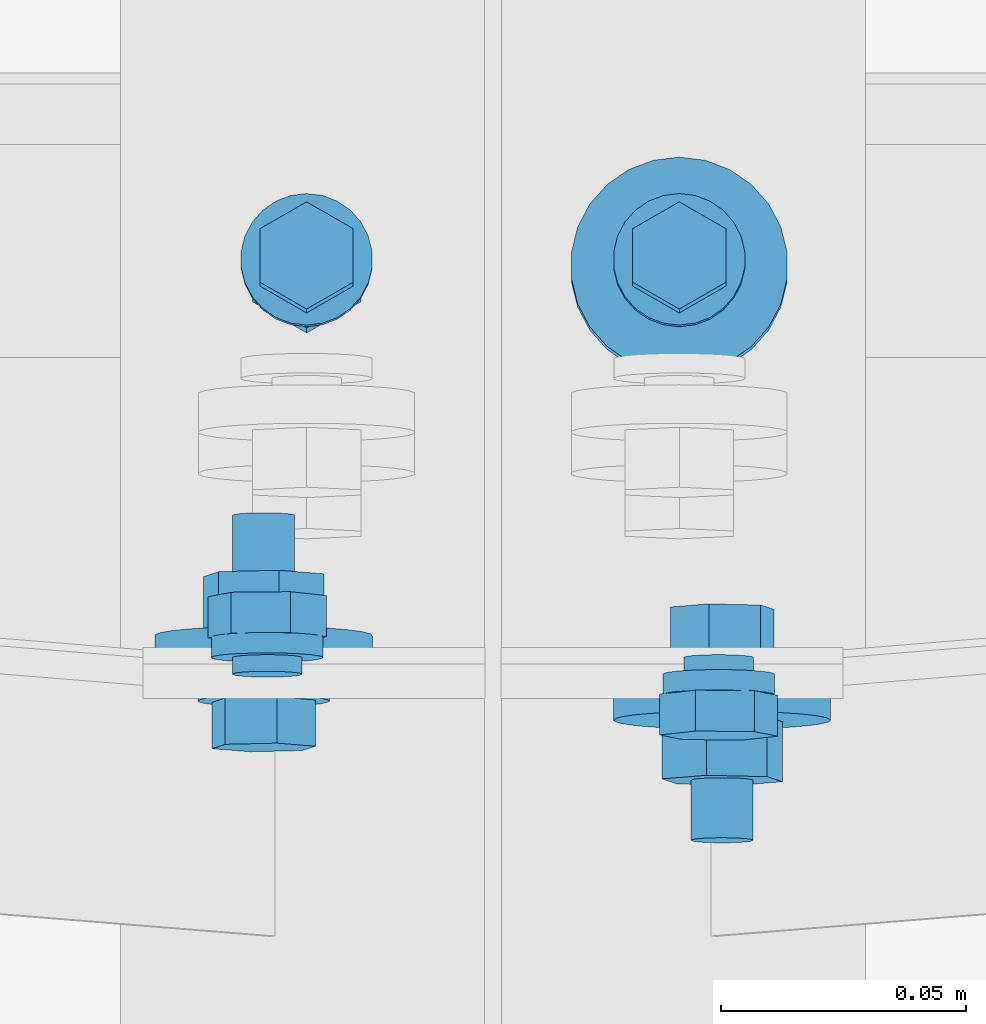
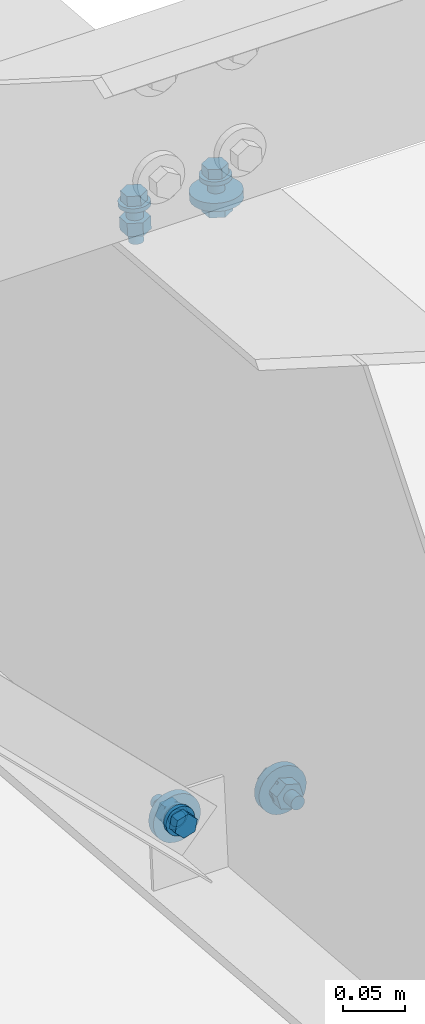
# One storey, part 148 of 185: 6 mechanical fasteners, 4 elements without a shape of their own.
"""IFC2X3 building model written with IfcOpenShell, lengths in millimetres."""

from ifc_helpers import new_model, si_unit, frame, origin_with_axes, origin_2d_with_axis, place, context, subcontext, project, spatial, polyline, circle, outline, extrude, source, transform, mapped, material, type_object, element, aggregate, save


model = new_model("IFC2X3")

# Units and contexts
model_context = context("Model", 3, precision=1e-05, world=origin_with_axes())
body_context = subcontext(model_context, "Body", "Model", "MODEL_VIEW")
ifc_project = project(units=[si_unit("LENGTHUNIT", "METRE", prefix="MILLI"), si_unit("AREAUNIT", "SQUARE_METRE"), si_unit("VOLUMEUNIT", "CUBIC_METRE"), si_unit("MASSUNIT", "GRAM", prefix="KILO"), si_unit("TIMEUNIT", "SECOND"), si_unit("PLANEANGLEUNIT", "RADIAN"), si_unit("SOLIDANGLEUNIT", "STERADIAN"), si_unit("THERMODYNAMICTEMPERATUREUNIT", "DEGREE_CELSIUS"), si_unit("LUMINOUSINTENSITYUNIT", "LUMEN")], contexts=[model_context])

# Site, building, storey
site_placement = place(None, origin_with_axes())
site = spatial("IfcSite", under=ifc_project, at=site_placement, Name="Undefined", CompositionType="ELEMENT")
building_placement = place(site_placement, origin_with_axes())
building = spatial("IfcBuilding", under=site, at=building_placement, Name="Undefined", CompositionType="ELEMENT")
storey_placement = place(building_placement, origin_with_axes())
storey = spatial("IfcBuildingStorey", under=building, at=storey_placement, Name="Undefined", CompositionType="ELEMENT", Elevation=0.0)

# Assembly, mechanical fastener
assembly_1_placement = place(storey_placement, origin_with_axes())
assembly_1 = element("IfcElementAssembly", 1, at=assembly_1_placement, inside=storey, Name="Steel Assembly", AssemblyPlace="NOTDEFINED", PredefinedType="RIGID_FRAME")
ifc_material_1 = material(Name="Undefined")
discrete_accessory_type = type_object("IfcDiscreteAccessoryType", Name="Bolt assembly")
shared_shape_1 = source(origin_with_axes(), body_context, "Body", "SweptSolid", [
    extrude(circle(Radius=7.14374971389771, at=origin_2d_with_axis()), frame((0.0, -1.59000001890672, 0.0), z_axis=(0.0, 1.0, 0.0), x_axis=(1.0, 0.0, 0.0)), (0.0, 0.0, 1.0), 1.7),
    extrude(outline(polyline([(10.9985221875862, 0.0), (5.4992610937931, 9.52499961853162), (-5.4992610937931, 9.52499961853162), (-10.9985221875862, 0.0), (-5.4992610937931, -9.52499961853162), (5.4992610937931, -9.52499961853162), (10.9985221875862, 0.0)])), frame((0.0, -15.0837496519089, 0.0), z_axis=(0.0, 1.0, 0.0), x_axis=(1.0, 0.0, 0.0)), (0.0, 0.0, 1.0), 9.5),
    extrude(circle(Radius=6.34999990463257, at=origin_2d_with_axis()), frame((0.0, -5.5587500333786, 0.0), z_axis=(0.0, 1.0, 0.0), x_axis=(1.0, 0.0, 0.0)), (0.0, 0.0, 1.0), 38.1),
    extrude(circle(Radius=13.4937496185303, at=origin_2d_with_axis()), frame((0.0, -5.5587500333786, 0.0), z_axis=(0.0, 1.0, 0.0), x_axis=(1.0, 0.0, 0.0)), (0.0, 0.0, 1.0), 4.0),
    extrude(circle(Radius=22.2250003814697, at=origin_2d_with_axis()), frame((0.0, 0.0, 0.0), z_axis=(0.0, 1.0, 0.0), x_axis=(1.0, 0.0, 0.0)), (0.0, 0.0, 1.0), 7.9),
    extrude(outline(polyline([(12.8316099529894, 0.0), (6.4158049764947, 11.1125001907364), (-6.4158049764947, 11.1125001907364), (-12.8316099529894, 0.0), (-6.4158049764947, -11.1125001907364), (6.4158049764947, -11.1125001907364), (12.8316099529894, 0.0)])), frame((0.0, 7.93750000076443, 0.0), z_axis=(0.0, 1.0, 0.0), x_axis=(1.0, 0.0, 0.0)), (0.0, 0.0, 1.0), 12.3),
])
mechanical_fastener_1_placement = place(assembly_1_placement, frame((14812.1255043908, 23836.3334696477, 6014.27804871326), z_axis=(-0.697745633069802, -0.0594892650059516, -0.713871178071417), x_axis=(-0.716345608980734, 0.0579446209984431, 0.6953354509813)))
mechanical_fastener_1 = element("IfcMechanicalFastener", 2, at=mechanical_fastener_1_placement, type_object=discrete_accessory_type, material=ifc_material_1, Name="Bolt assembly", NominalDiameter=12.6999998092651, NominalLength=38.0999984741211, context=body_context, shape_type="MappedRepresentation", body=[
    mapped(shared_shape_1, transform((0.0, 0.0, 0.0))),
])
aggregate(assembly_1, [mechanical_fastener_1])

assembly_2_placement = place(storey_placement, origin_with_axes())
assembly_2 = element("IfcElementAssembly", 3, at=assembly_2_placement, inside=storey, Name="Steel Assembly", AssemblyPlace="NOTDEFINED", PredefinedType="RIGID_FRAME")
shared_shape_2 = source(origin_with_axes(), body_context, "Body", "SweptSolid", [
    extrude(circle(Radius=7.14374971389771, at=origin_2d_with_axis()), frame((0.0, 0.0, 0.0), z_axis=(0.0, 1.0, 0.0), x_axis=(1.0, 0.0, 0.0)), (0.0, 0.0, 1.0), 1.7),
    extrude(outline(polyline([(10.9985221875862, 0.0), (5.4992610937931, 9.52499961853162), (-5.4992610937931, 9.52499961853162), (-10.9985221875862, 0.0), (-5.4992610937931, -9.52499961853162), (5.4992610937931, -9.52499961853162), (10.9985221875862, 0.0)])), frame((0.0, -13.4937496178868, 0.0), z_axis=(0.0, 1.0, 0.0), x_axis=(1.0, 0.0, 0.0)), (0.0, 0.0, 1.0), 9.5),
    extrude(circle(Radius=6.34999990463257, at=origin_2d_with_axis()), frame((0.0, -3.96874999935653, 0.0), z_axis=(0.0, 1.0, 0.0), x_axis=(1.0, 0.0, 0.0)), (0.0, 0.0, 1.0), 38.1),
    extrude(circle(Radius=13.4937496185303, at=origin_2d_with_axis()), frame((0.0, -3.96874999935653, 0.0), z_axis=(0.0, 1.0, 0.0), x_axis=(1.0, 0.0, 0.0)), (0.0, 0.0, 1.0), 4.0),
    extrude(circle(Radius=22.2250003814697, at=origin_2d_with_axis()), frame((0.0, 1.5900000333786, 0.0), z_axis=(0.0, 1.0, 0.0), x_axis=(1.0, 0.0, 0.0)), (0.0, 0.0, 1.0), 7.9),
    extrude(outline(polyline([(12.8316099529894, 0.0), (6.4158049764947, 11.1125001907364), (-6.4158049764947, 11.1125001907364), (-12.8316099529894, 0.0), (-6.4158049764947, -11.1125001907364), (6.4158049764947, -11.1125001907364), (12.8316099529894, 0.0)])), frame((0.0, 9.5275000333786, 0.0), z_axis=(0.0, 1.0, 0.0), x_axis=(1.0, 0.0, 0.0)), (0.0, 0.0, 1.0), 12.3),
])
mechanical_fastener_2_placement = place(assembly_2_placement, frame((14905.8744956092, 23836.3334696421, 6014.27804871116), z_axis=(0.697745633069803, -0.0594892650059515, -0.713871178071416), x_axis=(0.716345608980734, 0.0579446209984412, 0.6953354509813)))
mechanical_fastener_2 = element("IfcMechanicalFastener", 4, at=mechanical_fastener_2_placement, type_object=discrete_accessory_type, material=ifc_material_1, Name="Bolt assembly", NominalDiameter=12.6999998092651, NominalLength=38.0999984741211, context=body_context, shape_type="MappedRepresentation", body=[
    mapped(shared_shape_2, transform((0.0, 0.0, 0.0))),
])
aggregate(assembly_2, [mechanical_fastener_2])

# Assembly, mechanical fasteners
assembly_3_placement = place(storey_placement, origin_with_axes())
assembly_3 = element("IfcElementAssembly", 5, at=assembly_3_placement, inside=storey, Name="Steel Assembly", AssemblyPlace="NOTDEFINED", PredefinedType="RIGID_FRAME")
ifc_material_2 = material(Name="7990")
shared_shape_3 = source(origin_with_axes(), body_context, "Body", "SweptSolid", [
    extrude(circle(Radius=7.14374971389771, at=origin_2d_with_axis()), frame((0.0, -3.41600000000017, 0.0), z_axis=(0.0, 1.0, 0.0), x_axis=(1.0, 0.0, 0.0)), (0.0, 0.0, 1.0), 3.5),
    extrude(circle(Radius=11.4299998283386, at=origin_2d_with_axis()), frame((0.0, 0.0, 0.0), z_axis=(0.0, 1.0, 0.0), x_axis=(1.0, 0.0, 0.0)), (0.0, 0.0, 1.0), 4.2),
    extrude(outline(polyline([(12.171698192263, 0.0), (6.08584909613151, 10.5409998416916), (-6.08584909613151, 10.5409998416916), (-12.171698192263, 0.0), (-6.08584909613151, -10.5409998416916), (6.08584909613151, -10.5409998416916), (12.171698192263, 0.0)])), frame((0.0, 4.1909999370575, 0.0), z_axis=(0.0, 1.0, 0.0), x_axis=(1.0, 0.0, 0.0)), (0.0, 0.0, 1.0), 8.4),
])
mechanical_fastener_3_placement = place(assembly_3_placement, frame((14905.15815, 23836.2755250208, 6013.58271325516), z_axis=(-0.921635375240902, -0.0322263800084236, -0.386716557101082), x_axis=(0.388056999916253, -0.0765376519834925, -0.918451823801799)))
mechanical_fastener_3 = element("IfcMechanicalFastener", 6, at=mechanical_fastener_3_placement, type_object=discrete_accessory_type, material=ifc_material_2, Name="Bolt assembly", NominalDiameter=12.6999998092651, NominalLength=38.0999984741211, context=body_context, shape_type="MappedRepresentation", body=[
    mapped(shared_shape_3, transform((0.0, 0.0, 0.0))),
])
shared_shape_4 = source(origin_with_axes(), body_context, "Body", "SweptSolid", [
    extrude(circle(Radius=7.14374971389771, at=origin_2d_with_axis()), frame((0.0, 0.0, 0.0), z_axis=(0.0, 1.0, 0.0), x_axis=(1.0, 0.0, 0.0)), (0.0, 0.0, 1.0), 3.5),
    extrude(circle(Radius=11.4299998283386, at=origin_2d_with_axis()), frame((0.0, 3.41600000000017, 0.0), z_axis=(0.0, 1.0, 0.0), x_axis=(1.0, 0.0, 0.0)), (0.0, 0.0, 1.0), 4.2),
    extrude(outline(polyline([(12.171698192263, 0.0), (6.08584909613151, 10.5409998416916), (-6.08584909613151, 10.5409998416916), (-12.171698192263, 0.0), (-6.08584909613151, -10.5409998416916), (6.08584909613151, -10.5409998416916), (12.171698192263, 0.0)])), frame((0.0, 7.60699993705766, 0.0), z_axis=(0.0, 1.0, 0.0), x_axis=(1.0, 0.0, 0.0)), (0.0, 0.0, 1.0), 8.4),
])
mechanical_fastener_4_placement = place(assembly_3_placement, frame((14812.84185, 23836.2755250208, 6013.58271325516), z_axis=(0.921635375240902, -0.0322263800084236, -0.386716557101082), x_axis=(-0.388056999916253, -0.0765376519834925, -0.918451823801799)))
mechanical_fastener_4 = element("IfcMechanicalFastener", 7, at=mechanical_fastener_4_placement, type_object=discrete_accessory_type, material=ifc_material_2, Name="Bolt assembly", NominalDiameter=12.6999998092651, NominalLength=38.0999984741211, context=body_context, shape_type="MappedRepresentation", body=[
    mapped(shared_shape_4, transform((0.0, 0.0, 0.0))),
])
aggregate(assembly_3, [mechanical_fastener_4, mechanical_fastener_3])

assembly_4_placement = place(storey_placement, origin_with_axes())
assembly_4 = element("IfcElementAssembly", 8, at=assembly_4_placement, inside=storey, Name="Steel Assembly", AssemblyPlace="NOTDEFINED", PredefinedType="RIGID_FRAME")
shared_shape_5 = source(origin_with_axes(), body_context, "Body", "SweptSolid", [
    extrude(circle(Radius=7.14374971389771, at=origin_2d_with_axis()), frame((0.0, -0.0238014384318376, 0.0), z_axis=(0.0, 1.0, 0.0), x_axis=(1.0, 0.0, 0.0)), (0.0, 0.0, 1.0), 8.0),
    extrude(circle(Radius=7.14374971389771, at=origin_2d_with_axis()), frame((0.0, -3.08000006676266, 0.0), z_axis=(0.0, 1.0, 0.0), x_axis=(1.0, 0.0, 0.0)), (0.0, 0.0, 1.0), 3.2),
    extrude(circle(Radius=7.14374971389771, at=origin_2d_with_axis()), frame((0.0, -3.08000006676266, 0.0), z_axis=(0.0, 1.0, 0.0), x_axis=(1.0, 0.0, 0.0)), (0.0, 0.0, 1.0), 3.2),
    extrude(outline(polyline([(10.9985221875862, 0.0), (5.4992610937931, 9.52499961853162), (-5.4992610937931, 9.52499961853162), (-10.9985221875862, 0.0), (-5.4992610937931, -9.52499961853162), (5.4992610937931, -9.52499961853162), (10.9985221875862, 0.0)])), frame((0.0, -16.6737496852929, 0.0), z_axis=(0.0, 1.0, 0.0), x_axis=(1.0, 0.0, 0.0)), (0.0, 0.0, 1.0), 9.5),
    extrude(circle(Radius=6.34999990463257, at=origin_2d_with_axis()), frame((0.0, -7.14875006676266, 0.0), z_axis=(0.0, 1.0, 0.0), x_axis=(1.0, 0.0, 0.0)), (0.0, 0.0, 1.0), 38.1),
    extrude(circle(Radius=13.4937496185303, at=origin_2d_with_axis()), frame((0.0, -7.14875006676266, 0.0), z_axis=(0.0, 1.0, 0.0), x_axis=(1.0, 0.0, 0.0)), (0.0, 0.0, 1.0), 4.0),
    extrude(circle(Radius=22.2250003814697, at=origin_2d_with_axis()), frame((0.0, 7.95019856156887, 0.0), z_axis=(0.0, 1.0, 0.0), x_axis=(1.0, 0.0, 0.0)), (0.0, 0.0, 1.0), 7.9),
    extrude(outline(polyline([(12.8316099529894, 0.0), (6.4158049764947, 11.1125001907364), (-6.4158049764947, 11.1125001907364), (-12.8316099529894, 0.0), (-6.4158049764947, -11.1125001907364), (6.4158049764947, -11.1125001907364), (12.8316099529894, 0.0)])), frame((0.0, 15.8876985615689, 0.0), z_axis=(0.0, 1.0, 0.0), x_axis=(1.0, 0.0, 0.0)), (0.0, 0.0, 1.0), 12.3),
])
mechanical_fastener_5_placement = place(assembly_4_placement, frame((14897.1, 23920.5189522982, 6565.71908714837), z_axis=(-1.0, 0.0, 0.0), x_axis=(0.0, 0.996545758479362, -0.0830454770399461)))
mechanical_fastener_5 = element("IfcMechanicalFastener", 9, at=mechanical_fastener_5_placement, type_object=discrete_accessory_type, material=ifc_material_1, Name="Bolt assembly", NominalDiameter=12.6999998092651, NominalLength=38.0999984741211, context=body_context, shape_type="MappedRepresentation", body=[
    mapped(shared_shape_5, transform((0.0, 0.0, 0.0))),
])
shared_shape_6 = source(origin_with_axes(), body_context, "Body", "SweptSolid", [
    extrude(circle(Radius=7.14374971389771, at=origin_2d_with_axis()), frame((0.0, -0.0238014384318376, 0.0), z_axis=(0.0, 1.0, 0.0), x_axis=(1.0, 0.0, 0.0)), (0.0, 0.0, 1.0), 8.0),
    extrude(circle(Radius=7.14374971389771, at=origin_2d_with_axis()), frame((0.0, -3.08000006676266, 0.0), z_axis=(0.0, 1.0, 0.0), x_axis=(1.0, 0.0, 0.0)), (0.0, 0.0, 1.0), 3.2),
    extrude(circle(Radius=7.14374971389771, at=origin_2d_with_axis()), frame((0.0, -3.08000006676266, 0.0), z_axis=(0.0, 1.0, 0.0), x_axis=(1.0, 0.0, 0.0)), (0.0, 0.0, 1.0), 3.2),
    extrude(outline(polyline([(10.9985221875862, 0.0), (5.4992610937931, 9.52499961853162), (-5.4992610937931, 9.52499961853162), (-10.9985221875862, 0.0), (-5.4992610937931, -9.52499961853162), (5.4992610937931, -9.52499961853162), (10.9985221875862, 0.0)])), frame((0.0, -16.6737496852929, 0.0), z_axis=(0.0, 1.0, 0.0), x_axis=(1.0, 0.0, 0.0)), (0.0, 0.0, 1.0), 9.5),
    extrude(circle(Radius=6.34999990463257, at=origin_2d_with_axis()), frame((0.0, -7.14875006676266, 0.0), z_axis=(0.0, 1.0, 0.0), x_axis=(1.0, 0.0, 0.0)), (0.0, 0.0, 1.0), 38.1),
    extrude(circle(Radius=13.4937496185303, at=origin_2d_with_axis()), frame((0.0, -7.14875006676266, 0.0), z_axis=(0.0, 1.0, 0.0), x_axis=(1.0, 0.0, 0.0)), (0.0, 0.0, 1.0), 4.0),
    extrude(outline(polyline([(12.8316099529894, 0.0), (6.4158049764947, 11.1125001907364), (-6.4158049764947, 11.1125001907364), (-12.8316099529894, 0.0), (-6.4158049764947, -11.1125001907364), (6.4158049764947, -11.1125001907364), (12.8316099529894, 0.0)])), frame((0.0, 7.95019856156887, 0.0), z_axis=(0.0, 1.0, 0.0), x_axis=(1.0, 0.0, 0.0)), (0.0, 0.0, 1.0), 12.3),
])
mechanical_fastener_6_placement = place(assembly_4_placement, frame((14820.9, 23920.5189522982, 6565.71908714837), z_axis=(-1.0, 0.0, 0.0), x_axis=(0.0, 0.996545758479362, -0.0830454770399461)))
mechanical_fastener_6 = element("IfcMechanicalFastener", 10, at=mechanical_fastener_6_placement, type_object=discrete_accessory_type, material=ifc_material_1, Name="Bolt assembly", NominalDiameter=12.6999998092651, NominalLength=38.0999984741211, context=body_context, shape_type="MappedRepresentation", body=[
    mapped(shared_shape_6, transform((0.0, 0.0, 0.0))),
])
aggregate(assembly_4, [mechanical_fastener_5, mechanical_fastener_6])

save(model, "model.ifc")
